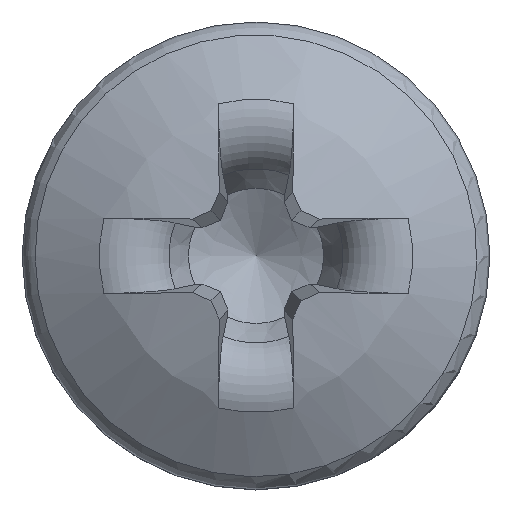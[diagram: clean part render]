
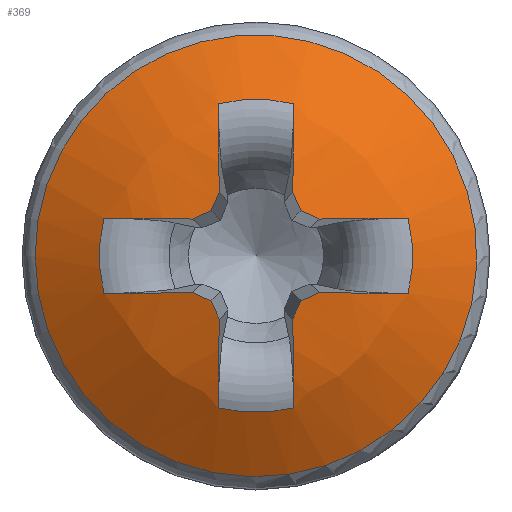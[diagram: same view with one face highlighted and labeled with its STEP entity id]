
A CAD part, top view. The second image highlights one B-rep face of the part: STEP entity #369.
In plain terms, the highlighted spherical face has radius 3.564 mm.
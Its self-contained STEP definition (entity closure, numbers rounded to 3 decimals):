
#261=SPHERICAL_SURFACE('',#1735,3.564);
#369=ADVANCED_FACE('',(#620,#621),#261,.T.);
#620=FACE_BOUND('',#640,.T.);
#621=FACE_BOUND('',#641,.T.);
#640=EDGE_LOOP('',(#791));
#641=EDGE_LOOP('',(#792,#793,#794,#795,#796,#797,#798,#799,#800,#801,#802,
#803,#804,#805,#806,#807,#808,#809,#810,#811));
#791=ORIENTED_EDGE('',*,*,#1457,.T.);
#792=ORIENTED_EDGE('',*,*,#1458,.F.);
#793=ORIENTED_EDGE('',*,*,#1459,.T.);
#794=ORIENTED_EDGE('',*,*,#1460,.F.);
#795=ORIENTED_EDGE('',*,*,#1461,.F.);
#796=ORIENTED_EDGE('',*,*,#1462,.F.);
#797=ORIENTED_EDGE('',*,*,#1463,.F.);
#798=ORIENTED_EDGE('',*,*,#1464,.T.);
#799=ORIENTED_EDGE('',*,*,#1465,.F.);
#800=ORIENTED_EDGE('',*,*,#1466,.F.);
#801=ORIENTED_EDGE('',*,*,#1467,.F.);
#802=ORIENTED_EDGE('',*,*,#1468,.F.);
#803=ORIENTED_EDGE('',*,*,#1469,.T.);
#804=ORIENTED_EDGE('',*,*,#1470,.F.);
#805=ORIENTED_EDGE('',*,*,#1471,.F.);
#806=ORIENTED_EDGE('',*,*,#1472,.F.);
#807=ORIENTED_EDGE('',*,*,#1473,.F.);
#808=ORIENTED_EDGE('',*,*,#1474,.T.);
#809=ORIENTED_EDGE('',*,*,#1475,.F.);
#810=ORIENTED_EDGE('',*,*,#1476,.F.);
#811=ORIENTED_EDGE('',*,*,#1477,.F.);
#1293=VERTEX_POINT('',#3751);
#1294=VERTEX_POINT('',#3753);
#1295=VERTEX_POINT('',#3754);
#1296=VERTEX_POINT('',#3756);
#1297=VERTEX_POINT('',#3758);
#1298=VERTEX_POINT('',#3760);
#1299=VERTEX_POINT('',#3762);
#1300=VERTEX_POINT('',#3764);
#1301=VERTEX_POINT('',#3766);
#1302=VERTEX_POINT('',#3768);
#1303=VERTEX_POINT('',#3770);
#1304=VERTEX_POINT('',#3772);
#1305=VERTEX_POINT('',#3774);
#1306=VERTEX_POINT('',#3776);
#1307=VERTEX_POINT('',#3778);
#1308=VERTEX_POINT('',#3780);
#1309=VERTEX_POINT('',#3782);
#1310=VERTEX_POINT('',#3784);
#1311=VERTEX_POINT('',#3786);
#1312=VERTEX_POINT('',#3788);
#1313=VERTEX_POINT('',#3790);
#1457=EDGE_CURVE('',#1293,#1293,#1671,.T.);
#1458=EDGE_CURVE('',#1294,#1295,#1672,.T.);
#1459=EDGE_CURVE('',#1294,#1296,#1673,.T.);
#1460=EDGE_CURVE('',#1297,#1296,#1674,.T.);
#1461=EDGE_CURVE('',#1298,#1297,#1675,.T.);
#1462=EDGE_CURVE('',#1299,#1298,#1676,.T.);
#1463=EDGE_CURVE('',#1300,#1299,#1677,.T.);
#1464=EDGE_CURVE('',#1300,#1301,#1678,.T.);
#1465=EDGE_CURVE('',#1302,#1301,#1679,.T.);
#1466=EDGE_CURVE('',#1303,#1302,#1680,.T.);
#1467=EDGE_CURVE('',#1304,#1303,#1681,.T.);
#1468=EDGE_CURVE('',#1305,#1304,#1682,.T.);
#1469=EDGE_CURVE('',#1305,#1306,#1683,.T.);
#1470=EDGE_CURVE('',#1307,#1306,#1684,.T.);
#1471=EDGE_CURVE('',#1308,#1307,#1685,.T.);
#1472=EDGE_CURVE('',#1309,#1308,#1686,.T.);
#1473=EDGE_CURVE('',#1310,#1309,#1687,.T.);
#1474=EDGE_CURVE('',#1310,#1311,#1688,.T.);
#1475=EDGE_CURVE('',#1312,#1311,#1689,.T.);
#1476=EDGE_CURVE('',#1313,#1312,#1690,.T.);
#1477=EDGE_CURVE('',#1295,#1313,#1691,.T.);
#1671=CIRCLE('',#1714,2.078);
#1672=CIRCLE('',#1715,3.564);
#1673=CIRCLE('',#1716,1.473);
#1674=CIRCLE('',#1717,3.564);
#1675=CIRCLE('',#1718,3.562);
#1676=CIRCLE('',#1719,3.562);
#1677=CIRCLE('',#1720,3.564);
#1678=CIRCLE('',#1721,1.473);
#1679=CIRCLE('',#1722,3.564);
#1680=CIRCLE('',#1723,3.562);
#1681=CIRCLE('',#1724,3.562);
#1682=CIRCLE('',#1725,3.564);
#1683=CIRCLE('',#1726,1.473);
#1684=CIRCLE('',#1727,3.564);
#1685=CIRCLE('',#1728,3.562);
#1686=CIRCLE('',#1729,3.562);
#1687=CIRCLE('',#1730,3.564);
#1688=CIRCLE('',#1731,1.473);
#1689=CIRCLE('',#1732,3.564);
#1690=CIRCLE('',#1733,3.562);
#1691=CIRCLE('',#1734,3.562);
#1714=AXIS2_PLACEMENT_3D('',#3750,#1800,#1801);
#1715=AXIS2_PLACEMENT_3D('',#3752,#1802,#1803);
#1716=AXIS2_PLACEMENT_3D('',#3755,#1804,#1805);
#1717=AXIS2_PLACEMENT_3D('',#3757,#1806,#1807);
#1718=AXIS2_PLACEMENT_3D('',#3759,#1808,#1809);
#1719=AXIS2_PLACEMENT_3D('',#3761,#1810,#1811);
#1720=AXIS2_PLACEMENT_3D('',#3763,#1812,#1813);
#1721=AXIS2_PLACEMENT_3D('',#3765,#1814,#1815);
#1722=AXIS2_PLACEMENT_3D('',#3767,#1816,#1817);
#1723=AXIS2_PLACEMENT_3D('',#3769,#1818,#1819);
#1724=AXIS2_PLACEMENT_3D('',#3771,#1820,#1821);
#1725=AXIS2_PLACEMENT_3D('',#3773,#1822,#1823);
#1726=AXIS2_PLACEMENT_3D('',#3775,#1824,#1825);
#1727=AXIS2_PLACEMENT_3D('',#3777,#1826,#1827);
#1728=AXIS2_PLACEMENT_3D('',#3779,#1828,#1829);
#1729=AXIS2_PLACEMENT_3D('',#3781,#1830,#1831);
#1730=AXIS2_PLACEMENT_3D('',#3783,#1832,#1833);
#1731=AXIS2_PLACEMENT_3D('',#3785,#1834,#1835);
#1732=AXIS2_PLACEMENT_3D('',#3787,#1836,#1837);
#1733=AXIS2_PLACEMENT_3D('',#3789,#1838,#1839);
#1734=AXIS2_PLACEMENT_3D('',#3791,#1840,#1841);
#1735=AXIS2_PLACEMENT_3D('',#3792,#1842,#1843);
#1800=DIRECTION('',(0.,0.,1.));
#1801=DIRECTION('',(-1.,0.,0.));
#1802=DIRECTION('',(-0.996,-0.035,0.087));
#1803=DIRECTION('',(0.087,0.,0.996));
#1804=DIRECTION('',(0.,0.,-1.));
#1805=DIRECTION('',(-1.,0.,0.));
#1806=DIRECTION('',(0.996,-0.035,0.087));
#1807=DIRECTION('',(0.087,0.,-0.996));
#1808=DIRECTION('',(0.907,0.404,0.122));
#1809=DIRECTION('',(-0.407,0.914,0.));
#1810=DIRECTION('',(0.404,0.907,0.122));
#1811=DIRECTION('',(-0.914,0.407,0.));
#1812=DIRECTION('',(-0.035,0.996,0.087));
#1813=DIRECTION('',(0.,-0.087,0.996));
#1814=DIRECTION('',(0.,0.,-1.));
#1815=DIRECTION('',(-1.,0.,0.));
#1816=DIRECTION('',(-0.035,-0.996,0.087));
#1817=DIRECTION('',(0.,-0.087,-0.996));
#1818=DIRECTION('',(0.404,-0.907,0.122));
#1819=DIRECTION('',(0.914,0.407,0.));
#1820=DIRECTION('',(0.907,-0.404,0.122));
#1821=DIRECTION('',(0.407,0.914,0.));
#1822=DIRECTION('',(0.996,0.035,0.087));
#1823=DIRECTION('',(0.087,0.,-0.996));
#1824=DIRECTION('',(0.,0.,-1.));
#1825=DIRECTION('',(-1.,0.,0.));
#1826=DIRECTION('',(-0.996,0.035,0.087));
#1827=DIRECTION('',(0.087,0.,0.996));
#1828=DIRECTION('',(-0.907,-0.404,0.122));
#1829=DIRECTION('',(0.407,-0.914,0.));
#1830=DIRECTION('',(-0.404,-0.907,0.122));
#1831=DIRECTION('',(0.914,-0.407,0.));
#1832=DIRECTION('',(0.035,-0.996,0.087));
#1833=DIRECTION('',(0.,-0.087,-0.996));
#1834=DIRECTION('',(0.,0.,-1.));
#1835=DIRECTION('',(-1.,0.,0.));
#1836=DIRECTION('',(0.035,0.996,0.087));
#1837=DIRECTION('',(0.,-0.087,0.996));
#1838=DIRECTION('',(-0.404,0.907,0.122));
#1839=DIRECTION('',(-0.914,-0.407,0.));
#1840=DIRECTION('',(-0.907,0.404,0.122));
#1841=DIRECTION('',(-0.407,-0.914,0.));
#1842=DIRECTION('',(0.,0.,1.));
#1843=DIRECTION('',(0.,1.,0.));
#3750=CARTESIAN_POINT('',(0.,0.,1.232));
#3751=CARTESIAN_POINT('',(-2.078,0.,1.232));
#3752=CARTESIAN_POINT('',(0.018,0.001,-1.666));
#3753=CARTESIAN_POINT('',(0.353,-1.43,1.581));
#3754=CARTESIAN_POINT('',(0.345,-0.595,1.833));
#3755=CARTESIAN_POINT('',(0.,0.,1.581));
#3756=CARTESIAN_POINT('',(-0.353,-1.43,1.581));
#3757=CARTESIAN_POINT('',(-0.018,0.001,-1.666));
#3758=CARTESIAN_POINT('',(-0.345,-0.595,1.833));
#3759=CARTESIAN_POINT('',(-0.115,-0.051,-1.68));
#3760=CARTESIAN_POINT('',(-0.424,-0.424,1.849));
#3761=CARTESIAN_POINT('',(-0.051,-0.115,-1.68));
#3762=CARTESIAN_POINT('',(-0.595,-0.345,1.833));
#3763=CARTESIAN_POINT('',(0.001,-0.018,-1.666));
#3764=CARTESIAN_POINT('',(-1.43,-0.353,1.581));
#3765=CARTESIAN_POINT('',(0.,0.,1.581));
#3766=CARTESIAN_POINT('',(-1.43,0.353,1.581));
#3767=CARTESIAN_POINT('',(0.001,0.018,-1.666));
#3768=CARTESIAN_POINT('',(-0.595,0.345,1.833));
#3769=CARTESIAN_POINT('',(-0.051,0.115,-1.68));
#3770=CARTESIAN_POINT('',(-0.424,0.424,1.849));
#3771=CARTESIAN_POINT('',(-0.115,0.051,-1.68));
#3772=CARTESIAN_POINT('',(-0.345,0.595,1.833));
#3773=CARTESIAN_POINT('',(-0.018,-0.001,-1.666));
#3774=CARTESIAN_POINT('',(-0.353,1.43,1.581));
#3775=CARTESIAN_POINT('',(0.,0.,1.581));
#3776=CARTESIAN_POINT('',(0.353,1.43,1.581));
#3777=CARTESIAN_POINT('',(0.018,-0.001,-1.666));
#3778=CARTESIAN_POINT('',(0.345,0.595,1.833));
#3779=CARTESIAN_POINT('',(0.115,0.051,-1.68));
#3780=CARTESIAN_POINT('',(0.424,0.424,1.849));
#3781=CARTESIAN_POINT('',(0.051,0.115,-1.68));
#3782=CARTESIAN_POINT('',(0.595,0.345,1.833));
#3783=CARTESIAN_POINT('',(-0.001,0.018,-1.666));
#3784=CARTESIAN_POINT('',(1.43,0.353,1.581));
#3785=CARTESIAN_POINT('',(0.,0.,1.581));
#3786=CARTESIAN_POINT('',(1.43,-0.353,1.581));
#3787=CARTESIAN_POINT('',(-0.001,-0.018,-1.666));
#3788=CARTESIAN_POINT('',(0.595,-0.345,1.833));
#3789=CARTESIAN_POINT('',(0.051,-0.115,-1.68));
#3790=CARTESIAN_POINT('',(0.424,-0.424,1.849));
#3791=CARTESIAN_POINT('',(0.115,-0.051,-1.68));
#3792=CARTESIAN_POINT('',(0.,0.,-1.664));
